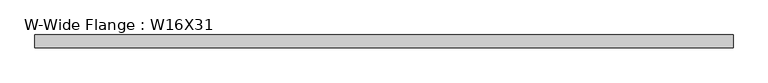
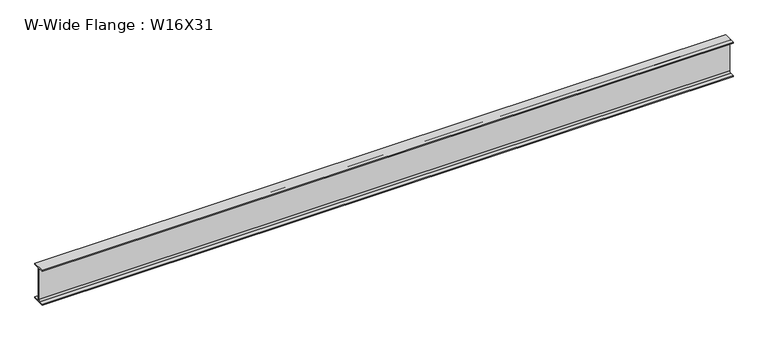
"""IFC4 building model written with IfcOpenShell, lengths in millimetres: beam geometry, W-Wide Flange : W16X31."""

import ifcopenshell
import ifcopenshell.guid

model = None  # the IFC model being written
_history = None  # IfcOwnerHistory: only IFC2X3 demands one
_inside = {}  # id of a spatial element -> (the spatial element, [elements in it])
_under = {}  # id of a project, library or spatial element -> (it, [spatial elements below it])
_declared = {}  # id of a project -> (the project, [libraries it declares])
_typed = {}  # id of a type object -> (the type object, [elements of that type])
_made_of = {}  # id of a material, layer set ... -> (it, [elements and type objects made of it])


def new_model(schema):
    """Start an empty IFC model of exactly this schema.

    Asked for "IFC4X3", IfcOpenShell would pick the latest addendum, in which some entities
    have other attributes; the version numbers below select the first issue.
    IFC2X3 requires an IfcOwnerHistory on every rooted entity: one is made here for all.
    """
    global model, _history
    if schema == "IFC4X3":
        model = ifcopenshell.file(schema_version=(4, 3, 0, 0))
    else:
        model = ifcopenshell.file(schema=schema)
    _inside.clear()
    _under.clear()
    _declared.clear()
    _typed.clear()
    _made_of.clear()
    _history = None
    if model.schema == "IFC2X3":
        org = make("IfcOrganization", Name="unknown")
        user = make(
            "IfcPersonAndOrganization",
            ThePerson=make("IfcPerson", FamilyName="unknown"),
            TheOrganization=org,
        )
        app = make(
            "IfcApplication",
            ApplicationDeveloper=org,
            Version="unknown",
            ApplicationFullName="unknown",
            ApplicationIdentifier="unknown",
        )
        _history = make(
            "IfcOwnerHistory",
            OwningUser=user,
            OwningApplication=app,
            ChangeAction="ADDED",
            CreationDate=0,
        )
    return model


def make(cls, **values):
    """One entity of the class cls with the attributes given. An attribute that is None is left unset."""
    return model.create_entity(
        cls, **{name: value for name, value in values.items() if value is not None}
    )


def rooted(cls, **values):
    """An entity with a GlobalId (a new one), such as an element, a storey or a relation."""
    return make(cls, GlobalId=ifcopenshell.guid.new(), OwnerHistory=_history, **values)


def si_unit(unit_type, name, prefix=None):
    """IfcSIUnit, for example si_unit("LENGTHUNIT", "METRE", prefix="MILLI")."""
    return make("IfcSIUnit", UnitType=unit_type, Prefix=prefix, Name=name)


def assignment(units):
    """IfcUnitAssignment: the units of a project."""
    return None if units is None else make("IfcUnitAssignment", Units=units)


def point(xyz):
    """IfcCartesianPoint."""
    return None if xyz is None else make("IfcCartesianPoint", Coordinates=xyz)


def direction(xyz):
    """IfcDirection."""
    return None if xyz is None else make("IfcDirection", DirectionRatios=xyz)


def frame(location, z_axis=None, x_axis=None):
    """IfcAxis2Placement3D, a coordinate frame: its origin and axes. An axis left out is left unset."""
    return make(
        "IfcAxis2Placement3D",
        Location=point(location),
        Axis=direction(z_axis),
        RefDirection=direction(x_axis),
    )


def frame_2d(location, x_axis=None):
    """IfcAxis2Placement2D, a coordinate frame in the plane: its origin and x axis."""
    return make(
        "IfcAxis2Placement2D", Location=point(location), RefDirection=direction(x_axis)
    )


def origin():
    """The frame at (0, 0, 0) with its axes left unset."""
    return frame((0.0, 0.0, 0.0))


def place(relative_to, where):
    """IfcLocalPlacement: puts the frame where relative to a parent placement (None: the world)."""
    return make(
        "IfcLocalPlacement", PlacementRelTo=relative_to, RelativePlacement=where
    )


def context(
    kind, dimensions, precision=None, world=None, true_north=None, identifier=None
):
    """IfcGeometricRepresentationContext, for example the 3D "Model" context."""
    return make(
        "IfcGeometricRepresentationContext",
        ContextIdentifier=identifier,
        ContextType=kind,
        CoordinateSpaceDimension=dimensions,
        Precision=precision,
        WorldCoordinateSystem=world,
        TrueNorth=true_north,
    )


def project(units=None, contexts=None):
    """IfcProject with its units and contexts."""
    return rooted(
        "IfcProject",
        Name="project",
        RepresentationContexts=contexts,
        UnitsInContext=assignment(units),
    )


def spatial(cls, under=None, at=None, **own):
    """A site, building, storey or space (cls), placed at a placement, below another one or the project."""
    s = rooted(cls, ObjectPlacement=at, **own)
    if under is not None:
        _under.setdefault(under.id(), (under, []))[1].append(s)
    return s


def polyline(points):
    """IfcPolyline through the points."""
    return make("IfcPolyline", Points=[point(p) for p in points])


def circle_curve(where, radius):
    """IfcCircle in the frame where."""
    return make("IfcCircle", Position=where, Radius=radius)


def trimmed(basis, trim1, trim2, sense, master):
    """IfcTrimmedCurve: the piece of a basis curve between two trims."""
    return make(
        "IfcTrimmedCurve",
        BasisCurve=basis,
        Trim1=trim1,
        Trim2=trim2,
        SenseAgreement=sense,
        MasterRepresentation=master,
    )


def segment(curve, same_sense, transition):
    """IfcCompositeCurveSegment."""
    return make(
        "IfcCompositeCurveSegment",
        Transition=transition,
        SameSense=same_sense,
        ParentCurve=curve,
    )


def composite_curve(segments, self_intersect=None):
    """IfcCompositeCurve: segments joined end to end."""
    return make("IfcCompositeCurve", Segments=segments, SelfIntersect=self_intersect)


def outline(outer, holes=None, kind="AREA"):
    """IfcArbitraryClosedProfileDef: a profile drawn as a closed curve; with holes, ...WithVoids."""
    if holes is None:
        return make("IfcArbitraryClosedProfileDef", ProfileType=kind, OuterCurve=outer)
    return make(
        "IfcArbitraryProfileDefWithVoids",
        ProfileType=kind,
        OuterCurve=outer,
        InnerCurves=holes,
    )


def extrude(swept, where, along, depth):
    """IfcExtrudedAreaSolid: the profile swept, set in the frame where, extruded along a direction by depth."""
    return make(
        "IfcExtrudedAreaSolid",
        SweptArea=swept,
        Position=where,
        ExtrudedDirection=direction(along),
        Depth=depth,
    )


def shape(context_of_items, identifier, shape_type, items):
    """IfcShapeRepresentation: the items that make up one representation, for example the "Body"."""
    return make(
        "IfcShapeRepresentation",
        ContextOfItems=context_of_items,
        RepresentationIdentifier=identifier,
        RepresentationType=shape_type,
        Items=items,
    )


def source(mapping_origin, context_of_items, identifier, shape_type, items):
    """IfcRepresentationMap: a shape defined once, which mapped items show again and again."""
    return make(
        "IfcRepresentationMap",
        MappingOrigin=mapping_origin,
        MappedRepresentation=shape(context_of_items, identifier, shape_type, items),
    )


def transform(
    local_origin,
    x_axis=None,
    y_axis=None,
    z_axis=None,
    scale=None,
    scale2=None,
    scale3=None,
    uniform=True,
):
    """IfcCartesianTransformationOperator3D, or its non-uniform kind. x_axis, y_axis, z_axis: its Axis1, 2, 3."""
    if uniform:
        return make(
            "IfcCartesianTransformationOperator3D",
            Axis1=direction(x_axis),
            Axis2=direction(y_axis),
            LocalOrigin=point(local_origin),
            Scale=scale,
            Axis3=direction(z_axis),
        )
    return make(
        "IfcCartesianTransformationOperator3DnonUniform",
        Axis1=direction(x_axis),
        Axis2=direction(y_axis),
        LocalOrigin=point(local_origin),
        Scale=scale,
        Axis3=direction(z_axis),
        Scale2=scale2,
        Scale3=scale3,
    )


def mapped(mapping_source, mapping_target):
    """IfcMappedItem: shows the shape of a source again, moved by a transform."""
    return make(
        "IfcMappedItem", MappingSource=mapping_source, MappingTarget=mapping_target
    )


def made_of(thing, what):
    """Note that an element or type object is made of a material, layer set ...; save() writes the relation."""
    if what is not None:
        _made_of.setdefault(what.id(), (what, []))[1].append(thing)
    return thing


def element(
    cls,
    number,
    at=None,
    inside=None,
    cuts=None,
    type_object=None,
    material=None,
    context=None,
    identifier="Body",
    shape_type=None,
    held_by="IfcProductDefinitionShape",
    body=None,
    shapes=None,
    **own,
):
    """One element of the class cls, such as IfcWall. Its Tag is "e" and its number.

    at: its placement. inside: the storey or other place that contains it. cuts: it is an
    opening in that element (IfcRelVoidsElement). A single representation is given by context,
    identifier, shape_type and body (its items); several are given by shapes. held_by: the class
    of the entity that holds the representations. save() writes the other relations.
    """
    e = rooted(cls, Tag="e%d" % number, ObjectPlacement=at, **own)
    if body is not None:
        shapes = [shape(context, identifier, shape_type, body)]
    if shapes is not None:
        e.Representation = make(held_by, Representations=shapes)
    if inside is not None:
        _inside.setdefault(inside.id(), (inside, []))[1].append(e)
    if cuts is not None:
        rooted(
            "IfcRelVoidsElement", RelatingBuildingElement=cuts, RelatedOpeningElement=e
        )
    if type_object is not None:
        _typed.setdefault(type_object.id(), (type_object, []))[1].append(e)
    return made_of(e, material)


def aggregate(whole, parts):
    """IfcRelAggregates: a whole, such as a stair, and the parts it consists of."""
    return rooted("IfcRelAggregates", RelatingObject=whole, RelatedObjects=parts)


def save(model, path):
    """Write the relations noted so far, then the file.

    IfcRelAggregates (storeys below a building ...), IfcRelContainedInSpatialStructure (elements
    in a storey), IfcRelDefinesByType, IfcRelAssociatesMaterial and IfcRelDeclares: one each for
    every whole, place, type object, material and project.
    """
    for whole, parts in _under.values():
        aggregate(whole, parts)
    for where, things in _inside.values():
        rooted(
            "IfcRelContainedInSpatialStructure",
            RelatedElements=things,
            RelatingStructure=where,
        )
    for kind, things in _typed.values():
        rooted("IfcRelDefinesByType", RelatedObjects=things, RelatingType=kind)
    for what, things in _made_of.values():
        rooted("IfcRelAssociatesMaterial", RelatedObjects=things, RelatingMaterial=what)
    for by, libraries in _declared.values():
        rooted("IfcRelDeclares", RelatingContext=by, RelatedDefinitions=libraries)
    model.write(path)


def w_wide_flange_w16x31_348d06aa(model_context):
    return source(origin(), model_context, "Body", "SweptSolid", [
        extrude(outline(composite_curve([segment(polyline([(70.231, -190.754), (70.231, -201.93), (-70.231, -201.93), (-70.231, -190.754), (-20.8915, -190.754)]), True, "CONTINUOUS"), segment(trimmed(circle_curve(frame_2d((-20.8915, -173.355)), 17.399), [point((-20.8915, -190.754))], [point((-3.4925, -173.355))], True, "CARTESIAN"), True, "CONTINUOUS"), segment(polyline([(-3.4925, -173.355), (-3.4925, 173.355)]), True, "CONTINUOUS"), segment(trimmed(circle_curve(frame_2d((-20.8915, 173.355)), 17.399), [point((-3.4925, 173.355))], [point((-20.8915, 190.754))], True, "CARTESIAN"), True, "CONTINUOUS"), segment(polyline([(-20.8915, 190.754), (-70.231, 190.754), (-70.231, 201.93), (70.231, 201.93), (70.231, 190.754), (20.8915, 190.754)]), True, "CONTINUOUS"), segment(trimmed(circle_curve(frame_2d((20.8915, 173.355)), 17.399), [point((20.8915, 190.754))], [point((3.4925, 173.355))], True, "CARTESIAN"), True, "CONTINUOUS"), segment(polyline([(3.4925, 173.355), (3.4925, -173.355)]), True, "CONTINUOUS"), segment(trimmed(circle_curve(frame_2d((20.8915, -173.355)), 17.399), [point((3.4925, -173.355))], [point((20.8915, -190.754))], True, "CARTESIAN"), True, "CONTINUOUS"), segment(polyline([(20.8915, -190.754), (70.231, -190.754)]), True, "CONTINUOUS")], self_intersect=False)), frame((-3784.6209019, 0.0, 0.0), z_axis=(1.0, 0.0, 0.0), x_axis=(0.0, 1.0, 0.0)), (0.0, 0.0, 1.0), 7625.969),
    ])


if __name__ == "__main__":
    model = new_model("IFC4")
    model_context = context("Model", 3, world=origin())
    ifc_project = project(units=[si_unit("LENGTHUNIT", "METRE", prefix="MILLI")], contexts=[model_context])
    site = spatial("IfcSite", under=ifc_project)
    building = spatial("IfcBuilding", under=site)
    placement = place(None, origin())
    w_wide_flange_w16x31_shape = w_wide_flange_w16x31_348d06aa(model_context)
    element("IfcBeam", 1, ObjectType="W-Wide Flange : W16X31", at=placement, inside=building, context=model_context, shape_type="MappedRepresentation", body=[
        mapped(w_wide_flange_w16x31_shape, transform((0.0, 0.0, 0.0), x_axis=(1.0, 0.0, 0.0), y_axis=(0.0, 1.0, 0.0), z_axis=(0.0, 0.0, 1.0))),
    ])
    save(model, "model.ifc")
